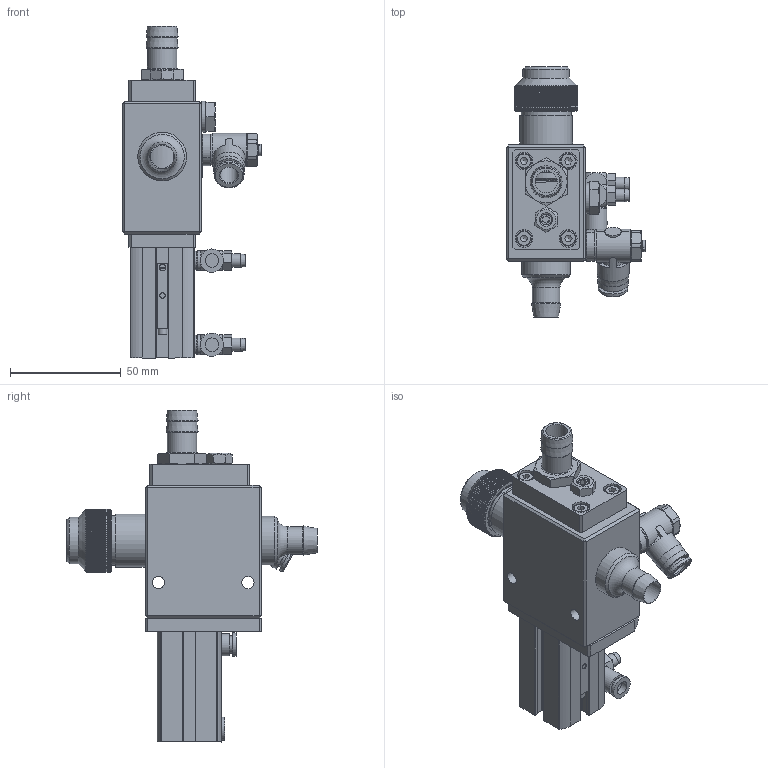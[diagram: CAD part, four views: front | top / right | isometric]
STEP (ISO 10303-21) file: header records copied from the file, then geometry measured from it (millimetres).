
FILE_DESCRIPTION(/* description */ ('© Copyright 2019 – Urheberrechtshinweis Diese CAD-Daten sind urheberrechtlich geschützt. Das Urheberrecht liegt, soweit nicht ausdrücklich anders gekennzeichnet, bei Stöger Automation GmbH. Bitte fragen Sie uns, falls Sie die CAD-Daten vervielfältigen oder','CAx-IF Rec.Pracs.---Representation and Presentation of Product Manufacturing Information (PMI)---4.0---2014-10-13'),/* implementation_level */ '2;1');
FILE_NAME(/* name */ 'H:\00_0 Arbeiten für Marketing\581351\3D_Step_file_paricle_sluice.stp',/* time_stamp */ '2020-08-17T12:23:46+02:00',/* author */ ('Stöger Automation GmbH'),/* organization */ ('Stöger Automation GmbH'),/* preprocessor_version */ 'ST-DEVELOPER v17',/* originating_system */ 'Autodesk Inventor 2018',/* authorisation */ '');
FILE_SCHEMA (('AP242_MANAGED_MODEL_BASED_3D_ENGINEERING_MIM_LF { 1 0 10303 442 1 1 4 }'));
Length unit declared in the file: millimetre
Products named in the file (29): 581351; 210 000; MKT_303316.ipt; 207 340; 210 011; Drossel-Schwenk G1/8 S8 03; DROSSEL-SCHWENK_G1_8_S8_02.ipt; DROSSEL-SCHWENK_G1_8_S8_01.ipt; 210 389; Festo ADN-16-15-I-P-A 001_1; Festo ADN-16-15-I-P-A 001_2; 203 010; 203 091; MKT_AVS250211.ipt; MKT_302219.ipt; MKT_302221.ipt; MKT_301076.ipt; MKT_301077.ipt; 203 136; 203 008; 203 007; 203 113; 203 234; 203 431; MKT_303317.ipt; MKT_.ipt; MKT_SKS2011000000007018.ipt; 210 005; 210 184
Assembly tree (40 placements, depth 3):
  581351
    210 000  x2
    MKT_303316.ipt
    207 340  x2
    210 011
      Drossel-Schwenk G1/8 S8 03
      DROSSEL-SCHWENK_G1_8_S8_02.ipt
      DROSSEL-SCHWENK_G1_8_S8_01.ipt
    210 389
      Festo ADN-16-15-I-P-A 001_1
      Festo ADN-16-15-I-P-A 001_2
    203 010
    203 091
    MKT_AVS250211.ipt
    MKT_302219.ipt
    MKT_302221.ipt
    MKT_301076.ipt
    203 008  x4
    203 007  x4
    MKT_301077.ipt
    203 136
    203 113
    203 234  x2
    203 431  x4
    MKT_303317.ipt
    MKT_.ipt
    MKT_SKS2011000000007018.ipt
    210 005
    210 184
Bounding box: 63 x 112.98 x 150 mm (x, y, z)
Volume: 176471.4 mm3; surface area: 85612.4 mm2
Topology: 42 solids, 42 shells, 1309 faces, 3493 edges, 2321 vertices
Faces by surface type: plane 669, cylinder 403, cone 177, torus 44, sphere 10, bspline 6
Full cylindrical faces by diameter (mm): 2 x6, 2.459 x4, 2.5 x2, 3 x6, 3.141 x5, 3.242 x9, 3.8 x4, 4 x10, 4.019 x2, 4.5 x8, 4.917 x4, 5 x2, 5.5 x6, 6 x13, 6.1 x2, 7 x9, 7.8 x6, 8 x10, 8.5 x2, 8.566 x2, 9 x3, 9.6 x1, 9.7 x1, 10 x6, 10.2 x1, 10.5 x4, 11 x1, 12.5 x1, 12.6 x2, 12.7 x1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
Entity records: 37628 total; most frequent: CARTESIAN_POINT 9591, ORIENTED_EDGE 5842, DIRECTION 5671, EDGE_CURVE 2921, AXIS2_PLACEMENT_3D 2270, VERTEX_POINT 1947, EDGE_LOOP 1244, LINE 1131
